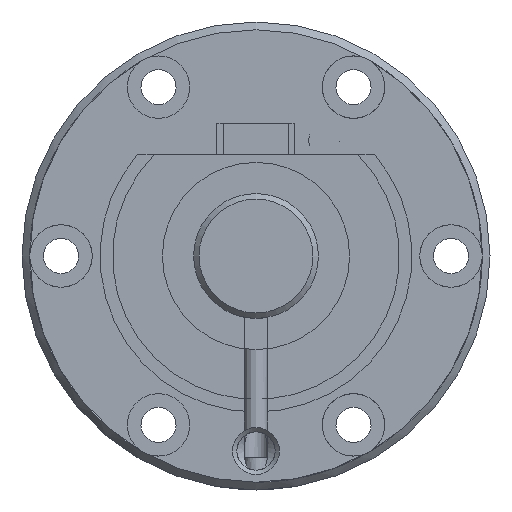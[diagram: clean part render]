
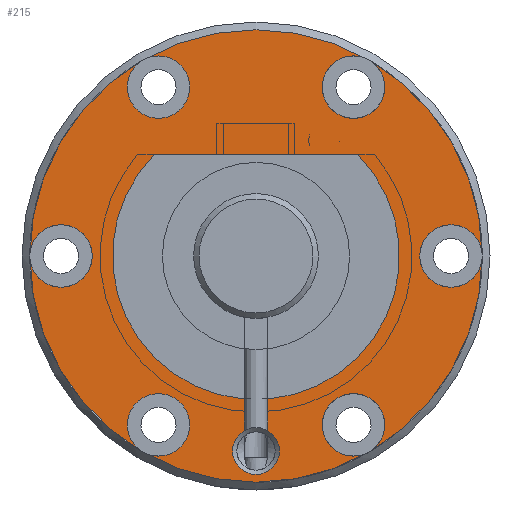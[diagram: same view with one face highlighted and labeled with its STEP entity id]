
A CAD part, left-side view. The second image highlights one B-rep face of the part: STEP entity #215.
In plain terms, the highlighted planar face has unit normal (1, 0, 0).
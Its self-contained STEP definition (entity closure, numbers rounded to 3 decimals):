
#215 = ADVANCED_FACE( '', ( #372, #373, #374, #375, #376, #377, #378, #379 ), #380, .T. );
#372 = FACE_BOUND( '', #605, .T. );
#373 = FACE_OUTER_BOUND( '', #606, .T. );
#374 = FACE_BOUND( '', #607, .T. );
#375 = FACE_BOUND( '', #608, .T. );
#376 = FACE_BOUND( '', #609, .T. );
#377 = FACE_BOUND( '', #610, .T. );
#378 = FACE_BOUND( '', #611, .T. );
#379 = FACE_BOUND( '', #612, .T. );
#380 = PLANE( '', #613 );
#605 = EDGE_LOOP( '', ( #1020 ) );
#606 = EDGE_LOOP( '', ( #1021 ) );
#607 = EDGE_LOOP( '', ( #1022, #1023 ) );
#608 = EDGE_LOOP( '', ( #1024 ) );
#609 = EDGE_LOOP( '', ( #1025 ) );
#610 = EDGE_LOOP( '', ( #1026 ) );
#611 = EDGE_LOOP( '', ( #1027 ) );
#612 = EDGE_LOOP( '', ( #1028 ) );
#613 = AXIS2_PLACEMENT_3D( '', #1029, #1030, #1031 );
#1020 = ORIENTED_EDGE( '', *, *, #1329, .T. );
#1021 = ORIENTED_EDGE( '', *, *, #1330, .T. );
#1022 = ORIENTED_EDGE( '', *, *, #1331, .F. );
#1023 = ORIENTED_EDGE( '', *, *, #1287, .F. );
#1024 = ORIENTED_EDGE( '', *, *, #1332, .F. );
#1025 = ORIENTED_EDGE( '', *, *, #1333, .F. );
#1026 = ORIENTED_EDGE( '', *, *, #1334, .F. );
#1027 = ORIENTED_EDGE( '', *, *, #1335, .F. );
#1028 = ORIENTED_EDGE( '', *, *, #1336, .F. );
#1029 = CARTESIAN_POINT( '', ( 10., 12., 0. ) );
#1030 = DIRECTION( '', ( 1., 0., 0. ) );
#1031 = DIRECTION( '', ( 0., 0., -1. ) );
#1287 = EDGE_CURVE( '', #1467, #1469, #1470, .T. );
#1329 = EDGE_CURVE( '', #1533, #1533, #1534, .F. );
#1330 = EDGE_CURVE( '', #1535, #1535, #1536, .T. );
#1331 = EDGE_CURVE( '', #1469, #1467, #1537, .T. );
#1332 = EDGE_CURVE( '', #1538, #1538, #1539, .T. );
#1333 = EDGE_CURVE( '', #1540, #1540, #1541, .T. );
#1334 = EDGE_CURVE( '', #1542, #1542, #1543, .T. );
#1335 = EDGE_CURVE( '', #1544, #1544, #1545, .T. );
#1336 = EDGE_CURVE( '', #1546, #1546, #1547, .T. );
#1467 = VERTEX_POINT( '', #1963 );
#1469 = VERTEX_POINT( '', #1966 );
#1470 = LINE( '', #1967, #1968 );
#1533 = VERTEX_POINT( '', #2050 );
#1534 = CIRCLE( '', #2051, 2.25 );
#1535 = VERTEX_POINT( '', #2052 );
#1536 = CIRCLE( '', #2053, 29. );
#1537 = CIRCLE( '', #2054, 18.4 );
#1538 = VERTEX_POINT( '', #2055 );
#1539 = CIRCLE( '', #2056, 2.25 );
#1540 = VERTEX_POINT( '', #2057 );
#1541 = CIRCLE( '', #2058, 2.25 );
#1542 = VERTEX_POINT( '', #2059 );
#1543 = CIRCLE( '', #2060, 2.25 );
#1544 = VERTEX_POINT( '', #2061 );
#1545 = CIRCLE( '', #2062, 2.25 );
#1546 = VERTEX_POINT( '', #2063 );
#1547 = CIRCLE( '', #2064, 2.25 );
#1963 = CARTESIAN_POINT( '', ( 10., 13.022, 13. ) );
#1966 = CARTESIAN_POINT( '', ( 10., -13.022, 13. ) );
#1967 = CARTESIAN_POINT( '', ( 10., 24., 13. ) );
#1968 = VECTOR( '', #2272, 1000. );
#2050 = CARTESIAN_POINT( '', ( 10., 25., -2.25 ) );
#2051 = AXIS2_PLACEMENT_3D( '', #2358, #2359, #2360 );
#2052 = CARTESIAN_POINT( '', ( 10., 0., -29. ) );
#2053 = AXIS2_PLACEMENT_3D( '', #2361, #2362, #2363 );
#2054 = AXIS2_PLACEMENT_3D( '', #2364, #2365, #2366 );
#2055 = CARTESIAN_POINT( '', ( 10., 12.5, -23.901 ) );
#2056 = AXIS2_PLACEMENT_3D( '', #2367, #2368, #2369 );
#2057 = CARTESIAN_POINT( '', ( 10., -12.5, -23.901 ) );
#2058 = AXIS2_PLACEMENT_3D( '', #2370, #2371, #2372 );
#2059 = CARTESIAN_POINT( '', ( 10., -25., -2.25 ) );
#2060 = AXIS2_PLACEMENT_3D( '', #2373, #2374, #2375 );
#2061 = CARTESIAN_POINT( '', ( 10., -12.5, 19.401 ) );
#2062 = AXIS2_PLACEMENT_3D( '', #2376, #2377, #2378 );
#2063 = CARTESIAN_POINT( '', ( 10., 12.5, 19.401 ) );
#2064 = AXIS2_PLACEMENT_3D( '', #2379, #2380, #2381 );
#2272 = DIRECTION( '', ( 0., -1., 0. ) );
#2358 = CARTESIAN_POINT( '', ( 10., 25., 0. ) );
#2359 = DIRECTION( '', ( 1., 0., 0. ) );
#2360 = DIRECTION( '', ( 0., 0., -1. ) );
#2361 = CARTESIAN_POINT( '', ( 10., 0., 0. ) );
#2362 = DIRECTION( '', ( 1., 0., 0. ) );
#2363 = DIRECTION( '', ( 0., 0., -1. ) );
#2364 = CARTESIAN_POINT( '', ( 10., 0., 0. ) );
#2365 = DIRECTION( '', ( 1., 0., 0. ) );
#2366 = DIRECTION( '', ( 0., 0., -1. ) );
#2367 = CARTESIAN_POINT( '', ( 10., 12.5, -21.651 ) );
#2368 = DIRECTION( '', ( 1., 0., 0. ) );
#2369 = DIRECTION( '', ( 0., 0., -1. ) );
#2370 = CARTESIAN_POINT( '', ( 10., -12.5, -21.651 ) );
#2371 = DIRECTION( '', ( 1., 0., 0. ) );
#2372 = DIRECTION( '', ( 0., 0., -1. ) );
#2373 = CARTESIAN_POINT( '', ( 10., -25., 0. ) );
#2374 = DIRECTION( '', ( 1., 0., 0. ) );
#2375 = DIRECTION( '', ( 0., 0., -1. ) );
#2376 = CARTESIAN_POINT( '', ( 10., -12.5, 21.651 ) );
#2377 = DIRECTION( '', ( 1., 0., 0. ) );
#2378 = DIRECTION( '', ( 0., 0., -1. ) );
#2379 = CARTESIAN_POINT( '', ( 10., 12.5, 21.651 ) );
#2380 = DIRECTION( '', ( 1., 0., 0. ) );
#2381 = DIRECTION( '', ( 0., 0., -1. ) );
